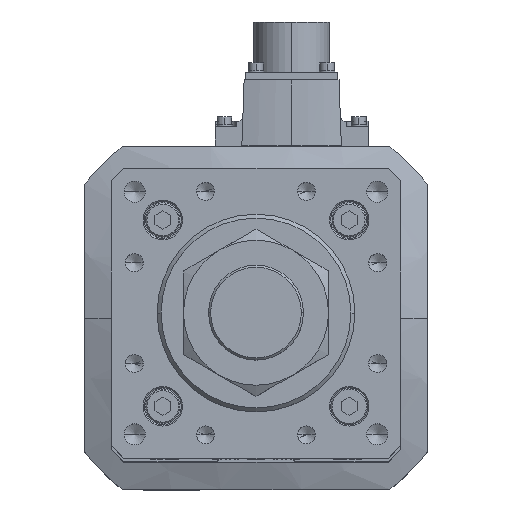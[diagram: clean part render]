
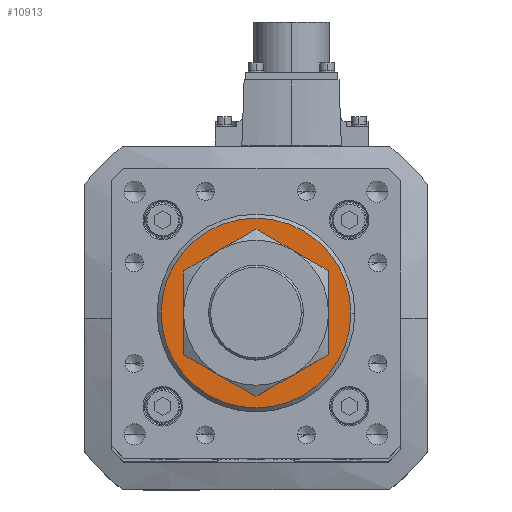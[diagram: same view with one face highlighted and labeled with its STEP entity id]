
A CAD part, top view. The second image highlights one B-rep face of the part: STEP entity #10913.
In plain terms, the highlighted planar face has unit normal (0, 0, 1).
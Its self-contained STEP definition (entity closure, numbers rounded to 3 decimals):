
#7 = DIRECTION ( 'NONE',  ( 1., 0., 0. ) ) ;
#807 = ORIENTED_EDGE ( 'NONE', *, *, #14781, .T. ) ;
#1215 = DIRECTION ( 'NONE',  ( 1., 0., 0. ) ) ;
#1477 = DIRECTION ( 'NONE',  ( 1., 0., 0. ) ) ;
#1745 = EDGE_LOOP ( 'NONE', ( #23289, #14634 ) ) ;
#4130 = CARTESIAN_POINT ( 'NONE',  ( 23., 0., 846. ) ) ;
#4461 = DIRECTION ( 'NONE',  ( 0., 0., -1. ) ) ;
#4854 = FACE_BOUND ( 'NONE', #1745, .T. ) ;
#4869 = EDGE_LOOP ( 'NONE', ( #807, #35579 ) ) ;
#5723 = DIRECTION ( 'NONE',  ( 0., 0., 1. ) ) ;
#6065 = EDGE_CURVE ( 'NONE', #19420, #15656, #12996, .T. ) ;
#6079 = AXIS2_PLACEMENT_3D ( 'NONE', #22794, #25747, #8289 ) ;
#7656 = DIRECTION ( 'NONE',  ( 1., 0., 0. ) ) ;
#8289 = DIRECTION ( 'NONE',  ( 1., 0., 0. ) ) ;
#10913 = ADVANCED_FACE ( 'NONE', ( #4854, #24435 ), #36413, .T. ) ;
#11717 = CARTESIAN_POINT ( 'NONE',  ( 0., 0., 846. ) ) ;
#12214 = EDGE_CURVE ( 'NONE', #16984, #17517, #36268, .T. ) ;
#12996 = CIRCLE ( 'NONE', #16489, 36. ) ;
#14634 = ORIENTED_EDGE ( 'NONE', *, *, #12214, .T. ) ;
#14781 = EDGE_CURVE ( 'NONE', #15656, #19420, #29657, .T. ) ;
#15656 = VERTEX_POINT ( 'NONE', #21082 ) ;
#16489 = AXIS2_PLACEMENT_3D ( 'NONE', #11717, #5723, #7 ) ;
#16984 = VERTEX_POINT ( 'NONE', #23120 ) ;
#17517 = VERTEX_POINT ( 'NONE', #4130 ) ;
#19420 = VERTEX_POINT ( 'NONE', #37009 ) ;
#20930 = AXIS2_PLACEMENT_3D ( 'NONE', #24965, #4461, #7656 ) ;
#21082 = CARTESIAN_POINT ( 'NONE',  ( -36., 0., 846. ) ) ;
#21823 = CARTESIAN_POINT ( 'NONE',  ( 0., 0., 846. ) ) ;
#22498 = AXIS2_PLACEMENT_3D ( 'NONE', #27712, #24892, #1215 ) ;
#22794 = CARTESIAN_POINT ( 'NONE',  ( 0., 0., 846. ) ) ;
#23120 = CARTESIAN_POINT ( 'NONE',  ( -23., 0., 846. ) ) ;
#23289 = ORIENTED_EDGE ( 'NONE', *, *, #24444, .T. ) ;
#24435 = FACE_OUTER_BOUND ( 'NONE', #4869, .T. ) ;
#24444 = EDGE_CURVE ( 'NONE', #17517, #16984, #34870, .T. ) ;
#24892 = DIRECTION ( 'NONE',  ( 0., 0., 1. ) ) ;
#24965 = CARTESIAN_POINT ( 'NONE',  ( 0., 0., 846. ) ) ;
#25747 = DIRECTION ( 'NONE',  ( 0., 0., -1. ) ) ;
#27712 = CARTESIAN_POINT ( 'NONE',  ( 0., 0., 846. ) ) ;
#29657 = CIRCLE ( 'NONE', #22498, 36. ) ;
#34870 = CIRCLE ( 'NONE', #6079, 23. ) ;
#35579 = ORIENTED_EDGE ( 'NONE', *, *, #6065, .T. ) ;
#35605 = AXIS2_PLACEMENT_3D ( 'NONE', #21823, #36532, #1477 ) ;
#36268 = CIRCLE ( 'NONE', #20930, 23. ) ;
#36413 = PLANE ( 'NONE',  #35605 ) ;
#36532 = DIRECTION ( 'NONE',  ( 0., 0., 1. ) ) ;
#37009 = CARTESIAN_POINT ( 'NONE',  ( 36., 0., 846. ) ) ;
